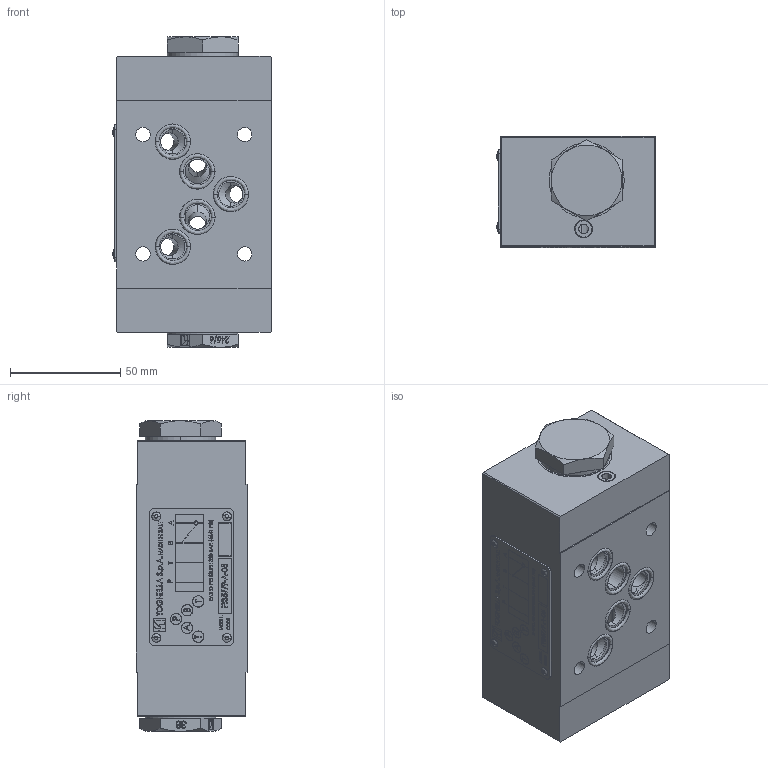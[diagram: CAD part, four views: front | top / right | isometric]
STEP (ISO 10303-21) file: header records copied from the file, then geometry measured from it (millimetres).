
FILE_DESCRIPTION (( 'STEP AP214' ), '1' );
FILE_NAME ('357-9-A-05.STEP', '2019-12-04T08:12:34', ( '' ), ( '' ), 'SwSTEP 2.0', 'SolidWorks 2018', '' );
FILE_SCHEMA (( 'AUTOMOTIVE_DESIGN' ));
Length unit declared in the file: millimetre
Products named in the file (1): 357-9-A-05
Bounding box: 71.66 x 50.58 x 140.6 mm (x, y, z)
Surface area: 54264.7 mm2 (no closed solid volume)
Topology: 0 solids, 42 shells, 749 faces, 3618 edges, 2813 vertices
Faces by surface type: plane 441, cylinder 128, bspline 120, cone 52, sphere 8
Entity records: 58656 total; most frequent: CARTESIAN_POINT 24317, ORIENTED_EDGE 4951, DIRECTION 4332, EDGE_CURVE 3616, VERTEX_POINT 2813, VECTOR 2352, LINE 2352, AXIS2_PLACEMENT_3D 990
